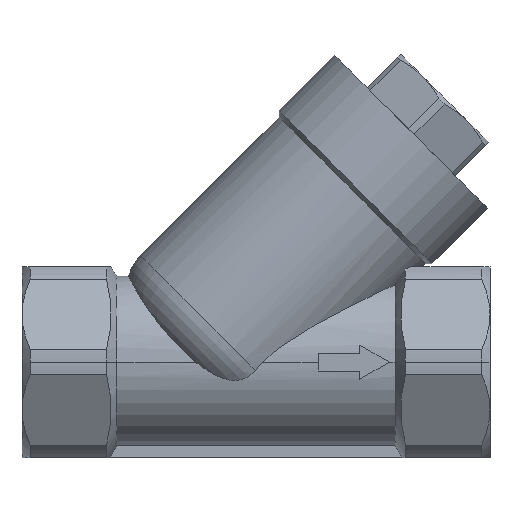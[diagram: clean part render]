
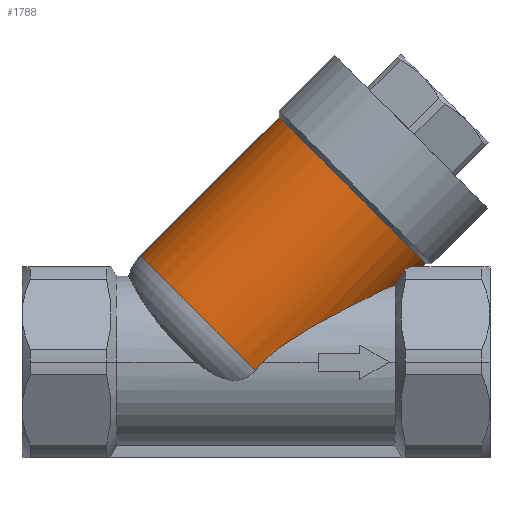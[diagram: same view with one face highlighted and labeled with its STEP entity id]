
A CAD part, top view. The second image highlights one B-rep face of the part: STEP entity #1788.
In plain terms, the highlighted cylindrical face has radius 17.5 mm (diameter 35 mm), a partial arc.
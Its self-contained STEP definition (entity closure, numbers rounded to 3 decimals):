
#1 = CARTESIAN_POINT ( 'NONE',  ( 2.814, 1.566, 14.433 ) ) ;
#19 = EDGE_CURVE ( 'NONE', #1118, #3280, #2264, .T. ) ;
#23 = VERTEX_POINT ( 'NONE', #3650 ) ;
#30 = CARTESIAN_POINT ( 'NONE',  ( 4.657, 2.964, 14.211 ) ) ;
#33 = CYLINDRICAL_SURFACE ( 'NONE', #1342, 17.5 ) ;
#93 = CARTESIAN_POINT ( 'NONE',  ( 8.516, 5.436, 13.457 ) ) ;
#108 = CARTESIAN_POINT ( 'NONE',  ( 1.105, 0., 14.5 ) ) ;
#148 = EDGE_CURVE ( 'NONE', #452, #868, #1792, .T. ) ;
#152 = CARTESIAN_POINT ( 'NONE',  ( 5.617, 3.619, 14.056 ) ) ;
#180 = CARTESIAN_POINT ( 'NONE',  ( 13.391, 8.139, 12.016 ) ) ;
#209 = CARTESIAN_POINT ( 'NONE',  ( 31.824, 44.575, 0. ) ) ;
#211 = CARTESIAN_POINT ( 'NONE',  ( 11.442, 7.095, 12.66 ) ) ;
#255 = CARTESIAN_POINT ( 'NONE',  ( 1.105, 0., 14.5 ) ) ;
#273 = AXIS2_PLACEMENT_3D ( 'NONE', #1680, #1086, #1393 ) ;
#334 = CARTESIAN_POINT ( 'NONE',  ( -19.5, 18., 0. ) ) ;
#437 = VERTEX_POINT ( 'NONE', #3673 ) ;
#448 = CARTESIAN_POINT ( 'NONE',  ( 14.364, 8.644, 11.659 ) ) ;
#452 = VERTEX_POINT ( 'NONE', #1522 ) ;
#540 = B_SPLINE_CURVE_WITH_KNOTS ( 'NONE', 3,
 ( #3205, #1954, #1495, #993 ),
 .UNSPECIFIED., .F., .F.,
 ( 4, 4 ),
 ( 0., 0.003 ),
 .UNSPECIFIED. ) ;
#600 = CARTESIAN_POINT ( 'NONE',  ( 26.118, 16.1, 6.859 ) ) ;
#621 = VERTEX_POINT ( 'NONE', #334 ) ;
#630 = CARTESIAN_POINT ( 'NONE',  ( 15.815, 9.383, 11.06 ) ) ;
#644 = CARTESIAN_POINT ( 'NONE',  ( 16.297, 9.626, 10.849 ) ) ;
#655 = EDGE_CURVE ( 'NONE', #437, #1118, #540, .T. ) ;
#689 = CARTESIAN_POINT ( 'NONE',  ( 19.158, 11.039, 9.426 ) ) ;
#710 = CARTESIAN_POINT ( 'NONE',  ( 17.257, 10.105, 10.404 ) ) ;
#763 = DIRECTION ( 'NONE',  ( -0.707, 0.707, 0. ) ) ;
#772 = CARTESIAN_POINT ( 'NONE',  ( 3.893, 41.393, 0. ) ) ;
#849 = EDGE_CURVE ( 'NONE', #452, #437, #1204, .T. ) ;
#868 = VERTEX_POINT ( 'NONE', #2216 ) ;
#909 = VERTEX_POINT ( 'NONE', #772 ) ;
#933 = CARTESIAN_POINT ( 'NONE',  ( 17.736, 10.342, 10.169 ) ) ;
#946 = EDGE_CURVE ( 'NONE', #621, #909, #2412, .T. ) ;
#970 = CARTESIAN_POINT ( 'NONE',  ( 0.677, -0.439, 14.495 ) ) ;
#992 = CARTESIAN_POINT ( 'NONE',  ( 22.708, 12.736, 6.985 ) ) ;
#993 = CARTESIAN_POINT ( 'NONE',  ( 23.5, 13.108, 6.2 ) ) ;
#1017 = CARTESIAN_POINT ( 'NONE',  ( 25.232, 15.733, 7.663 ) ) ;
#1086 = DIRECTION ( 'NONE',  ( 0.707, 0.707, 0. ) ) ;
#1118 = VERTEX_POINT ( 'NONE', #2596 ) ;
#1137 = EDGE_LOOP ( 'NONE', ( #1764, #3745, #2531, #1372, #2724, #2266, #3582, #1652, #2355 ) ) ;
#1204 =( BOUNDED_CURVE ( )  B_SPLINE_CURVE ( 3, ( #600, #3027, #1572, #1017 ),
 .UNSPECIFIED., .F., .F. ) 
 B_SPLINE_CURVE_WITH_KNOTS ( ( 4, 4 ),
 ( 3.544, 3.595 ),
 .UNSPECIFIED. ) 
 CURVE ( )  GEOMETRIC_REPRESENTATION_ITEM ( )  RATIONAL_B_SPLINE_CURVE ( ( 1., 1., 1., 1. ) ) 
 REPRESENTATION_ITEM ( '' )  );
#1211 = CIRCLE ( 'NONE', #273, 17.5 ) ;
#1274 = CARTESIAN_POINT ( 'NONE',  ( 0.062, -1.131, 14.458 ) ) ;
#1278 = CARTESIAN_POINT ( 'NONE',  ( 23.5, 13.108, 6.2 ) ) ;
#1330 = CARTESIAN_POINT ( 'NONE',  ( 21.855, 12.334, 7.661 ) ) ;
#1342 = AXIS2_PLACEMENT_3D ( 'NONE', #209, #2273, #3614 ) ;
#1360 = B_SPLINE_CURVE_WITH_KNOTS ( 'NONE', 3,
 ( #108, #2149, #970, #3020, #1274, #3305 ),
 .UNSPECIFIED., .F., .F.,
 ( 4, 2, 4 ),
 ( 0.028, 0.029, 0.03 ),
 .UNSPECIFIED. ) ;
#1372 = ORIENTED_EDGE ( 'NONE', *, *, #946, .F. ) ;
#1381 = EDGE_CURVE ( 'NONE', #621, #1972, #1211, .T. ) ;
#1393 = DIRECTION ( 'NONE',  ( -0.707, 0.707, 0. ) ) ;
#1495 = CARTESIAN_POINT ( 'NONE',  ( 24.076, 13.964, 6.723 ) ) ;
#1522 = CARTESIAN_POINT ( 'NONE',  ( 26.118, 16.1, 6.859 ) ) ;
#1523 = EDGE_CURVE ( 'NONE', #909, #23, #3169, .T. ) ;
#1572 = CARTESIAN_POINT ( 'NONE',  ( 25.544, 15.862, 7.398 ) ) ;
#1629 = CARTESIAN_POINT ( 'NONE',  ( 20.081, 11.485, 8.882 ) ) ;
#1652 = ORIENTED_EDGE ( 'NONE', *, *, #655, .F. ) ;
#1680 = CARTESIAN_POINT ( 'NONE',  ( -7.126, 5.626, 0. ) ) ;
#1764 = ORIENTED_EDGE ( 'NONE', *, *, #148, .T. ) ;
#1780 = CARTESIAN_POINT ( 'NONE',  ( 19.45, 56.95, 0. ) ) ;
#1788 = ADVANCED_FACE ( 'NONE', ( #2348 ), #33, .T. ) ;
#1792 =( BOUNDED_CURVE ( )  B_SPLINE_CURVE ( 3, ( #2505, #2526, #2539, #2475 ),
 .UNSPECIFIED., .F., .F. ) 
 B_SPLINE_CURVE_WITH_KNOTS ( ( 4, 4 ),
 ( 5.88, 6.283 ),
 .UNSPECIFIED. ) 
 CURVE ( )  GEOMETRIC_REPRESENTATION_ITEM ( )  RATIONAL_B_SPLINE_CURVE ( ( 1., 0.987, 0.987, 1. ) ) 
 REPRESENTATION_ITEM ( '' )  );
#1842 = EDGE_CURVE ( 'NONE', #868, #23, #3699, .T. ) ;
#1954 = CARTESIAN_POINT ( 'NONE',  ( 24.654, 14.841, 7.207 ) ) ;
#1972 = VERTEX_POINT ( 'NONE', #3183 ) ;
#2036 = CARTESIAN_POINT ( 'NONE',  ( 10.465, 6.557, 12.947 ) ) ;
#2149 = CARTESIAN_POINT ( 'NONE',  ( 0.889, -0.217, 14.5 ) ) ;
#2167 = VECTOR ( 'NONE', #3698, 1000. ) ;
#2216 = CARTESIAN_POINT ( 'NONE',  ( 28.097, 16.1, 0. ) ) ;
#2230 = AXIS2_PLACEMENT_3D ( 'NONE', #2569, #2556, #763 ) ;
#2264 = B_SPLINE_CURVE_WITH_KNOTS ( 'NONE', 3,
 ( #1278, #992, #1330, #1629, #689, #933, #710, #644, #630, #448, #180, #211, #2036, #93, #2978, #152, #30, #1, #3735, #3709 ),
 .UNSPECIFIED., .F., .F.,
 ( 4, 2, 2, 2, 2, 2, 2, 2, 2, 4 ),
 ( 0., 0.003, 0.007, 0.009, 0.01, 0.014, 0.017, 0.021, 0.024, 0.028 ),
 .UNSPECIFIED. ) ;
#2266 = ORIENTED_EDGE ( 'NONE', *, *, #2361, .F. ) ;
#2273 = DIRECTION ( 'NONE',  ( 0.707, 0.707, 0. ) ) ;
#2348 = FACE_OUTER_BOUND ( 'NONE', #1137, .T. ) ;
#2355 = ORIENTED_EDGE ( 'NONE', *, *, #849, .F. ) ;
#2361 = EDGE_CURVE ( 'NONE', #3280, #1972, #1360, .T. ) ;
#2411 = DIRECTION ( 'NONE',  ( 0.707, 0.707, 0. ) ) ;
#2412 = LINE ( 'NONE', #1780, #3187 ) ;
#2475 = CARTESIAN_POINT ( 'NONE',  ( 28.097, 16.1, 0. ) ) ;
#2505 = CARTESIAN_POINT ( 'NONE',  ( 26.118, 16.1, 6.859 ) ) ;
#2526 = CARTESIAN_POINT ( 'NONE',  ( 27.428, 16.1, 4.683 ) ) ;
#2531 = ORIENTED_EDGE ( 'NONE', *, *, #1523, .F. ) ;
#2539 = CARTESIAN_POINT ( 'NONE',  ( 28.097, 16.1, 2.365 ) ) ;
#2556 = DIRECTION ( 'NONE',  ( 0.707, 0.707, 0. ) ) ;
#2569 = CARTESIAN_POINT ( 'NONE',  ( 16.268, 29.019, 0. ) ) ;
#2596 = CARTESIAN_POINT ( 'NONE',  ( 23.5, 13.108, 6.2 ) ) ;
#2724 = ORIENTED_EDGE ( 'NONE', *, *, #1381, .T. ) ;
#2978 = CARTESIAN_POINT ( 'NONE',  ( 7.544, 4.853, 13.679 ) ) ;
#3020 = CARTESIAN_POINT ( 'NONE',  ( 0.263, -0.896, 14.474 ) ) ;
#3027 = CARTESIAN_POINT ( 'NONE',  ( 25.839, 15.985, 7.13 ) ) ;
#3169 = CIRCLE ( 'NONE', #2230, 17.5 ) ;
#3180 = CARTESIAN_POINT ( 'NONE',  ( 44.198, 32.201, 0. ) ) ;
#3183 = CARTESIAN_POINT ( 'NONE',  ( -0.13, -1.37, 14.435 ) ) ;
#3187 = VECTOR ( 'NONE', #2411, 1000. ) ;
#3205 = CARTESIAN_POINT ( 'NONE',  ( 25.232, 15.733, 7.663 ) ) ;
#3280 = VERTEX_POINT ( 'NONE', #255 ) ;
#3305 = CARTESIAN_POINT ( 'NONE',  ( -0.13, -1.37, 14.435 ) ) ;
#3582 = ORIENTED_EDGE ( 'NONE', *, *, #19, .F. ) ;
#3614 = DIRECTION ( 'NONE',  ( -0.707, 0.707, 0. ) ) ;
#3650 = CARTESIAN_POINT ( 'NONE',  ( 28.642, 16.645, 0. ) ) ;
#3673 = CARTESIAN_POINT ( 'NONE',  ( 25.232, 15.733, 7.663 ) ) ;
#3698 = DIRECTION ( 'NONE',  ( 0.707, 0.707, 0. ) ) ;
#3699 = LINE ( 'NONE', #3180, #2167 ) ;
#3709 = CARTESIAN_POINT ( 'NONE',  ( 1.105, 0., 14.5 ) ) ;
#3735 = CARTESIAN_POINT ( 'NONE',  ( 1.928, 0.823, 14.5 ) ) ;
#3745 = ORIENTED_EDGE ( 'NONE', *, *, #1842, .T. ) ;
